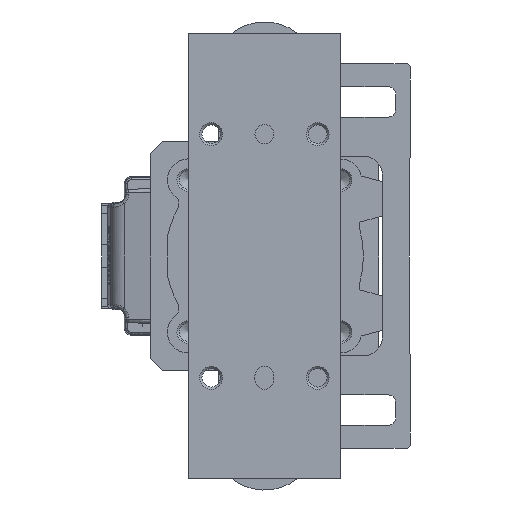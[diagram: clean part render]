
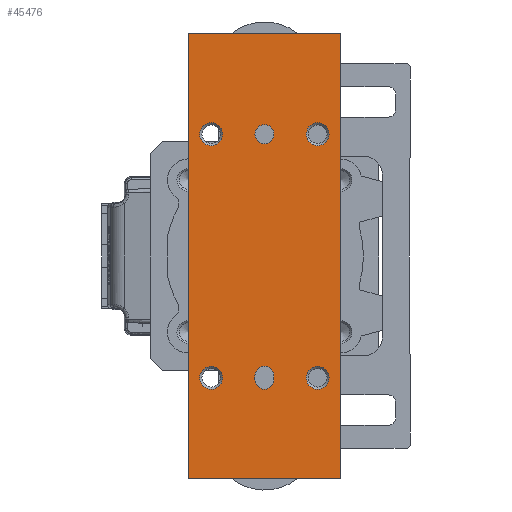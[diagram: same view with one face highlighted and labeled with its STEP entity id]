
A CAD part, left-side view. The second image highlights one B-rep face of the part: STEP entity #45476.
In plain terms, the highlighted planar face has unit normal (-1, 0, 0) as drawn and (0, 0, 1) by its records, which use the part's own axes.
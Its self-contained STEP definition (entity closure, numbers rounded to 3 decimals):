
#268 = EDGE_LOOP ( 'NONE', ( #9996 ) ) ;
#446 = EDGE_CURVE ( 'NONE', #14522, #14522, #21644, .T. ) ;
#748 = LINE ( 'NONE', #24397, #26627 ) ;
#761 = EDGE_LOOP ( 'NONE', ( #898 ) ) ;
#819 = EDGE_LOOP ( 'NONE', ( #48755 ) ) ;
#898 = ORIENTED_EDGE ( 'NONE', *, *, #446, .T. ) ;
#1380 = DIRECTION ( 'NONE',  ( 1., 0., 0. ) ) ;
#1605 = LINE ( 'NONE', #46234, #24426 ) ;
#2652 = ORIENTED_EDGE ( 'NONE', *, *, #9680, .F. ) ;
#3016 = FACE_BOUND ( 'NONE', #819, .T. ) ;
#3789 = CIRCLE ( 'NONE', #33867, 2.5 ) ;
#4271 = VERTEX_POINT ( 'NONE', #45149 ) ;
#4555 = VERTEX_POINT ( 'NONE', #20949 ) ;
#5693 = AXIS2_PLACEMENT_3D ( 'NONE', #45045, #8759, #40771 ) ;
#6554 = EDGE_LOOP ( 'NONE', ( #48077 ) ) ;
#7963 = DIRECTION ( 'NONE',  ( 0., -1., 0. ) ) ;
#8151 = DIRECTION ( 'NONE',  ( 0., 0., 1. ) ) ;
#8284 = DIRECTION ( 'NONE',  ( 0., 0., -1. ) ) ;
#8664 = DIRECTION ( 'NONE',  ( -1., 0., 0. ) ) ;
#8759 = DIRECTION ( 'NONE',  ( 0., 0., -1. ) ) ;
#8793 = CIRCLE ( 'NONE', #10544, 3. ) ;
#9297 = VECTOR ( 'NONE', #7963, 1000. ) ;
#9389 = DIRECTION ( 'NONE',  ( 0., 1., 0. ) ) ;
#9680 = EDGE_CURVE ( 'NONE', #32898, #18761, #19922, .T. ) ;
#9707 = DIRECTION ( 'NONE',  ( 1., 0., 0. ) ) ;
#9996 = ORIENTED_EDGE ( 'NONE', *, *, #21648, .T. ) ;
#10273 = EDGE_CURVE ( 'NONE', #4271, #4271, #24457, .T. ) ;
#10380 = VERTEX_POINT ( 'NONE', #43708 ) ;
#10544 = AXIS2_PLACEMENT_3D ( 'NONE', #44837, #8284, #29188 ) ;
#10698 = VECTOR ( 'NONE', #9389, 1000. ) ;
#10995 = EDGE_CURVE ( 'NONE', #24172, #24172, #41775, .T. ) ;
#11464 = CARTESIAN_POINT ( 'NONE',  ( -58.5, -20., 28.5 ) ) ;
#11851 = FACE_BOUND ( 'NONE', #15046, .T. ) ;
#13279 = VERTEX_POINT ( 'NONE', #46251 ) ;
#13606 = EDGE_CURVE ( 'NONE', #18761, #23099, #748, .T. ) ;
#13854 = DIRECTION ( 'NONE',  ( 0., 0., -1. ) ) ;
#14372 = CARTESIAN_POINT ( 'NONE',  ( 32., 14., 28.5 ) ) ;
#14522 = VERTEX_POINT ( 'NONE', #31722 ) ;
#15046 = EDGE_LOOP ( 'NONE', ( #2652, #42138, #46111, #26885 ) ) ;
#15703 = EDGE_LOOP ( 'NONE', ( #47674 ) ) ;
#16126 = FACE_BOUND ( 'NONE', #6554, .T. ) ;
#16656 = DIRECTION ( 'NONE',  ( -1., 0., 0. ) ) ;
#16907 = CARTESIAN_POINT ( 'NONE',  ( -35., 14., 28.5 ) ) ;
#17077 = CARTESIAN_POINT ( 'NONE',  ( -32., -14., 28.5 ) ) ;
#18527 = VERTEX_POINT ( 'NONE', #52345 ) ;
#18554 = DIRECTION ( 'NONE',  ( 0., 0., 1. ) ) ;
#18620 = ORIENTED_EDGE ( 'NONE', *, *, #51628, .T. ) ;
#18761 = VERTEX_POINT ( 'NONE', #27993 ) ;
#19072 = EDGE_CURVE ( 'NONE', #46283, #32898, #26040, .T. ) ;
#19922 = CIRCLE ( 'NONE', #28478, 2.5 ) ;
#20034 = LINE ( 'NONE', #11464, #9297 ) ;
#20204 = CARTESIAN_POINT ( 'NONE',  ( -58.5, 20., 28.5 ) ) ;
#20949 = CARTESIAN_POINT ( 'NONE',  ( 29., -14., 28.5 ) ) ;
#21065 = AXIS2_PLACEMENT_3D ( 'NONE', #17077, #13854, #25653 ) ;
#21644 = CIRCLE ( 'NONE', #51678, 3. ) ;
#21648 = EDGE_CURVE ( 'NONE', #4555, #4555, #8793, .T. ) ;
#23099 = VERTEX_POINT ( 'NONE', #49493 ) ;
#23943 = EDGE_CURVE ( 'NONE', #48598, #27123, #1605, .T. ) ;
#24172 = VERTEX_POINT ( 'NONE', #16907 ) ;
#24397 = CARTESIAN_POINT ( 'NONE',  ( -32.5, -2.5, 28.5 ) ) ;
#24426 = VECTOR ( 'NONE', #9707, 1000. ) ;
#24457 = CIRCLE ( 'NONE', #21065, 3. ) ;
#24576 = ORIENTED_EDGE ( 'NONE', *, *, #53082, .T. ) ;
#24937 = CARTESIAN_POINT ( 'NONE',  ( 58.5, -20., 28.5 ) ) ;
#25259 = DIRECTION ( 'NONE',  ( 0., 0., 1. ) ) ;
#25280 = LINE ( 'NONE', #20204, #43812 ) ;
#25506 = CARTESIAN_POINT ( 'NONE',  ( -31.5, 2.5, 28.5 ) ) ;
#25653 = DIRECTION ( 'NONE',  ( -1., 0., 0. ) ) ;
#26019 = LINE ( 'NONE', #24937, #10698 ) ;
#26040 = LINE ( 'NONE', #41935, #44585 ) ;
#26627 = VECTOR ( 'NONE', #29218, 1000. ) ;
#26885 = ORIENTED_EDGE ( 'NONE', *, *, #13606, .F. ) ;
#27119 = CARTESIAN_POINT ( 'NONE',  ( 58.5, -20., 28.5 ) ) ;
#27123 = VERTEX_POINT ( 'NONE', #27119 ) ;
#27993 = CARTESIAN_POINT ( 'NONE',  ( -32.5, -2.5, 28.5 ) ) ;
#28211 = CARTESIAN_POINT ( 'NONE',  ( 0., 0., 28.5 ) ) ;
#28478 = AXIS2_PLACEMENT_3D ( 'NONE', #44107, #18554, #39003 ) ;
#29188 = DIRECTION ( 'NONE',  ( -1., 0., 0. ) ) ;
#29218 = DIRECTION ( 'NONE',  ( 1., 0., 0. ) ) ;
#30767 = EDGE_CURVE ( 'NONE', #23099, #46283, #53072, .T. ) ;
#31321 = DIRECTION ( 'NONE',  ( 0., 0., -1. ) ) ;
#31722 = CARTESIAN_POINT ( 'NONE',  ( 29., 14., 28.5 ) ) ;
#32276 = FACE_BOUND ( 'NONE', #268, .T. ) ;
#32898 = VERTEX_POINT ( 'NONE', #48824 ) ;
#33867 = AXIS2_PLACEMENT_3D ( 'NONE', #49245, #8151, #45210 ) ;
#34140 = CARTESIAN_POINT ( 'NONE',  ( -31.5, 0., 28.5 ) ) ;
#35956 = AXIS2_PLACEMENT_3D ( 'NONE', #34140, #25259, #1380 ) ;
#37835 = AXIS2_PLACEMENT_3D ( 'NONE', #28211, #44158, #44656 ) ;
#39003 = DIRECTION ( 'NONE',  ( 1., 0., 0. ) ) ;
#39410 = EDGE_CURVE ( 'NONE', #18527, #18527, #3789, .T. ) ;
#39596 = FACE_BOUND ( 'NONE', #761, .T. ) ;
#39865 = PLANE ( 'NONE',  #37835 ) ;
#39869 = EDGE_LOOP ( 'NONE', ( #42869, #24576, #18620, #42267 ) ) ;
#40771 = DIRECTION ( 'NONE',  ( -1., 0., 0. ) ) ;
#41775 = CIRCLE ( 'NONE', #5693, 3. ) ;
#41935 = CARTESIAN_POINT ( 'NONE',  ( -32.5, 2.5, 28.5 ) ) ;
#42138 = ORIENTED_EDGE ( 'NONE', *, *, #19072, .F. ) ;
#42267 = ORIENTED_EDGE ( 'NONE', *, *, #23943, .T. ) ;
#42869 = ORIENTED_EDGE ( 'NONE', *, *, #48925, .T. ) ;
#43708 = CARTESIAN_POINT ( 'NONE',  ( -58.5, 20., 28.5 ) ) ;
#43812 = VECTOR ( 'NONE', #8664, 1000. ) ;
#43850 = CARTESIAN_POINT ( 'NONE',  ( -58.5, -20., 28.5 ) ) ;
#44107 = CARTESIAN_POINT ( 'NONE',  ( -32.5, 0., 28.5 ) ) ;
#44158 = DIRECTION ( 'NONE',  ( 0., 0., -1. ) ) ;
#44585 = VECTOR ( 'NONE', #16656, 1000. ) ;
#44656 = DIRECTION ( 'NONE',  ( -1., 0., 0. ) ) ;
#44837 = CARTESIAN_POINT ( 'NONE',  ( 32., -14., 28.5 ) ) ;
#45045 = CARTESIAN_POINT ( 'NONE',  ( -32., 14., 28.5 ) ) ;
#45149 = CARTESIAN_POINT ( 'NONE',  ( -35., -14., 28.5 ) ) ;
#45210 = DIRECTION ( 'NONE',  ( 1., 0., 0. ) ) ;
#45476 = ADVANCED_FACE ( 'NONE', ( #39596, #32276, #3016, #16126, #48691, #48451, #11851 ), #39865, .F. ) ;
#46111 = ORIENTED_EDGE ( 'NONE', *, *, #30767, .F. ) ;
#46234 = CARTESIAN_POINT ( 'NONE',  ( -58.5, -20., 28.5 ) ) ;
#46251 = CARTESIAN_POINT ( 'NONE',  ( 58.5, 20., 28.5 ) ) ;
#46283 = VERTEX_POINT ( 'NONE', #25506 ) ;
#47674 = ORIENTED_EDGE ( 'NONE', *, *, #39410, .F. ) ;
#47746 = DIRECTION ( 'NONE',  ( -1., 0., 0. ) ) ;
#48077 = ORIENTED_EDGE ( 'NONE', *, *, #10995, .T. ) ;
#48451 = FACE_OUTER_BOUND ( 'NONE', #39869, .T. ) ;
#48598 = VERTEX_POINT ( 'NONE', #43850 ) ;
#48691 = FACE_BOUND ( 'NONE', #15703, .T. ) ;
#48755 = ORIENTED_EDGE ( 'NONE', *, *, #10273, .T. ) ;
#48824 = CARTESIAN_POINT ( 'NONE',  ( -32.5, 2.5, 28.5 ) ) ;
#48925 = EDGE_CURVE ( 'NONE', #27123, #13279, #26019, .T. ) ;
#49245 = CARTESIAN_POINT ( 'NONE',  ( 32., 0., 28.5 ) ) ;
#49493 = CARTESIAN_POINT ( 'NONE',  ( -31.5, -2.5, 28.5 ) ) ;
#51628 = EDGE_CURVE ( 'NONE', #10380, #48598, #20034, .T. ) ;
#51678 = AXIS2_PLACEMENT_3D ( 'NONE', #14372, #31321, #47746 ) ;
#52345 = CARTESIAN_POINT ( 'NONE',  ( 34.5, 0., 28.5 ) ) ;
#53072 = CIRCLE ( 'NONE', #35956, 2.5 ) ;
#53082 = EDGE_CURVE ( 'NONE', #13279, #10380, #25280, .T. ) ;
